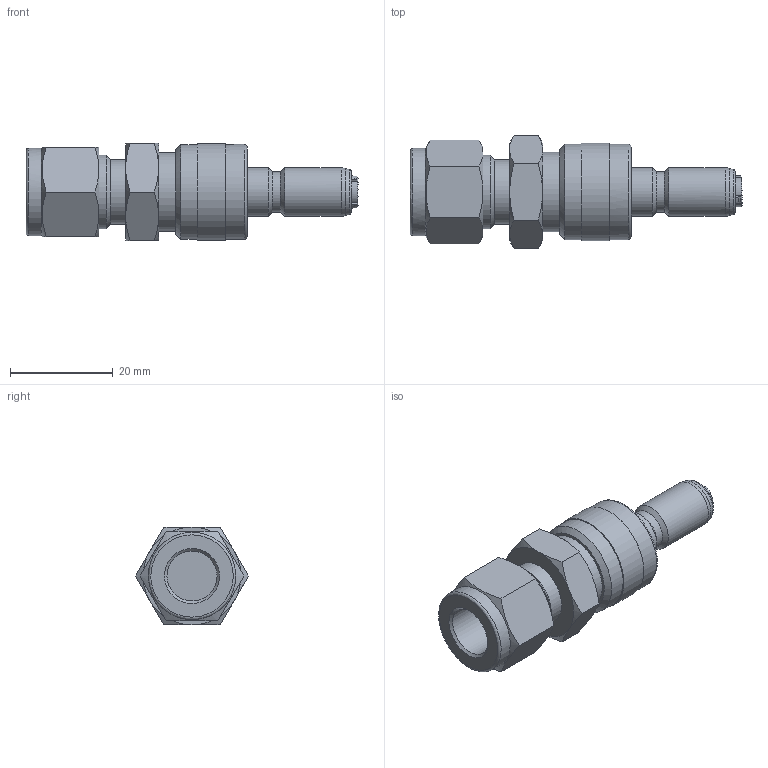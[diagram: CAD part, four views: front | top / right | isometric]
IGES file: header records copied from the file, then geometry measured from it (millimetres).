
Global section: file name: SQC2P-S6-S0; native system: Autodesk Inventor 2016; preprocessor: unknown; author: 이승민,,11,0; organization: 20170208.102437; date: 20170208.203207; units: millimetre
Bounding box: 64.6 x 22 x 19.05 mm (x, y, z)
Volume: 10179.1 mm3; surface area: 5350.8 mm2
Topology: 1 solids, 1 shells, 111 faces, 297 edges, 204 vertices
Faces by surface type: bspline 111
